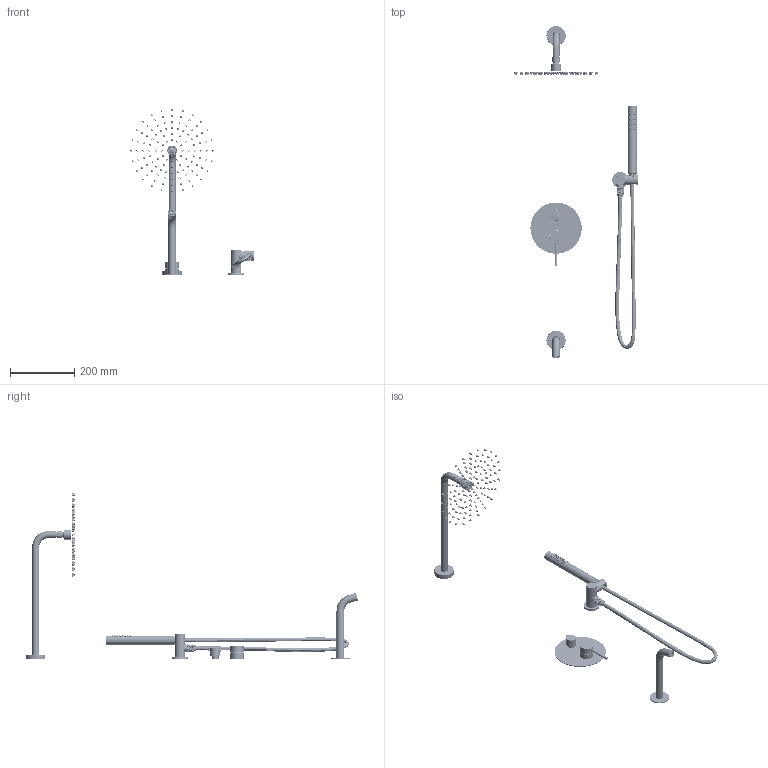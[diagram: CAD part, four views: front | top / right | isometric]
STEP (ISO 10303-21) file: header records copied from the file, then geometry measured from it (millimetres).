
FILE_DESCRIPTION((''),'2;1');
FILE_NAME('OL-939017B-3D-250613_ASM','2025-06-13T08:59:24',('GL-JISHU1'),(''),'CREO PARAMETRIC BY PTC INC, 2021063','CREO PARAMETRIC BY PTC INC, 2021063','');
FILE_SCHEMA(('AUTOMOTIVE_DESIGN { 1 0 10303 214 1 1 1 1 }'));
Products named in the file (77): 0002_1_AF0; 3JQ-001036-NAA_1_AF0; 3ZT-939017B-AXS_ASM_1_AF0_ASM; 105065_79_1_1_AF0; 004009_AF0_7_1_1_AF0; 10A008-1_6_1_1_AF0; 003005_9_1_1_AF0; 004011_AF0_6_1_1_AF0; 004011_AF1_6_1_1_AF0; 104085_18_1_1_AF0; 002032_6_1_1_AF0; D26-1_ASM_43_ASM_1_ASM_1_AF0_ASM; D26-1-3D_ASM_1_ASM_1_AF0_ASM; 3FX-001112-MAA_ASM_1_AF0_ASM; 3YG-001056-AJJ_1_AF0; 5TT-001037-ACR_1_AF0; 3FX-001038-MMA-1_1_AF0; 3FX-001038-MAA-2_1; 3FX-001038-MAA_ASM_1_AF0_ASM; 5TT-001087-ACR_1_AF0; 3YG-001009-AJJ_1; 3ZG-010027-MCR_1_AF0; 3JQ-001196-NAA_AF1_1; 5BS-181013-1-ACR_1; 5BS-181013-2-ACR_1; 3LS-001077-JAA_1; 3LS-001063-JAA_1; 3SN-001001-MCR_1; 181013000_ASM_1_ASM; 5MB-001108-KCR_1_AF0; 3JQ-001248-NAA_1_AF0; 3JQ-001144-NAA_1_AF0; 3BS-261001A-HCR_1; GL-939017B-1_ASM_1_AF0_ASM; 3ZB-001030-KCR_1_AF0; 220001_1; 3ZB-001030-KCR_ASM_1_AF0_ASM; SA01400-10001_1_AF0; SA01400-20001_1; SA01400-30001_1_AF0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
Assembly tree (204 placements, depth 7):
  OL-939017B-3D-250613_ASM
    GL-939017B_ASM_1_AF0_ASM
      GL-939017B-1_ASM_1_AF0_ASM
        3ZT-939017B-AXS_ASM_1_AF0_ASM
          0002_1_AF0
          3JQ-001036-NAA_1_AF0
        3FX-001112-MAA_ASM_1_AF0_ASM
          D26-1-3D_ASM_1_ASM_1_AF0_ASM
            D26-1_ASM_43_ASM_1_ASM_1_AF0_ASM
              105065_79_1_1_AF0
              004009_AF0_7_1_1_AF0
              10A008-1_6_1_1_AF0
              003005_9_1_1_AF0
              004011_AF0_6_1_1_AF0
              004011_AF1_6_1_1_AF0
              104085_18_1_1_AF0
              002032_6_1_1_AF0
        3YG-001056-AJJ_1_AF0
        5TT-001037-ACR_1_AF0
        3FX-001038-MAA_ASM_1_AF0_ASM
          3FX-001038-MMA-1_1_AF0
          3FX-001038-MAA-2_1
        5TT-001087-ACR_1_AF0
        3YG-001009-AJJ_1
        3ZG-010027-MCR_1_AF0
        3JQ-001196-NAA_AF1_1
        181013000_ASM_1_ASM
          5BS-181013-1-ACR_1
          5BS-181013-2-ACR_1
          3LS-001077-JAA_1
          3LS-001063-JAA_1
          3SN-001001-MCR_1
        5MB-001108-KCR_1_AF0
        3JQ-001248-NAA_1_AF0
        3JQ-001144-NAA_1_AF0
        3BS-261001A-HCR_1
        3LS-001063-JAA_1
        3SN-001001-MCR_1
      PT-SA01-40_ASM_1_AF0_ASM
        3ZB-001030-KCR_ASM_1_AF0_ASM
          3ZB-001030-KCR_1_AF0
          220001_1
        3TG-001087-KCR_ASM_1_AF0_ASM
          SA01400-10001_1_AF0
          SA01400-20001_1
          SA01400-30001_1_AF0
      3DP-001006-JCR_ASM_1_ASM
        300-YDPZ_ASM_4_ASM_1_ASM
          300-YDP_4_1
          0326-JD_6_1  x126
          0620-WXD_6_1
          0620-LM_6_1
          0620-NMQ_6_1
          0326-QT_6_1_1
          0620-GLD_6_1
      GL-SZ04_ASM_1_AF0_ASM
        3SZ-001041-GCR_ASM_1_AF0_ASM
          3SZ-001041-1_1_AF0
          3SZ-001041-2_1_AF0
          3SZ-001041-3_1
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Bounding box: 385.75 x 1035.05 x 519.75 mm (x, y, z)
Volume: 484998.5 mm3; surface area: 371780.3 mm2
Topology: 174 solids, 174 shells, 14305 faces, 37763 edges, 24084 vertices
Faces by surface type: plane 8022, bspline 2554, cylinder 1985, cone 1127, torus 513, sphere 84, extrusion 20
Entity records: 527722 total; most frequent: CARTESIAN_POINT 184055, ORIENTED_EDGE 59344, DIRECTION 39353, EDGE_CURVE 29672, PRESENTATION_STYLE_ASSIGNMENT 22991, VERTEX_POINT 19303, STYLED_ITEM 18084, CURVE_STYLE 18007
